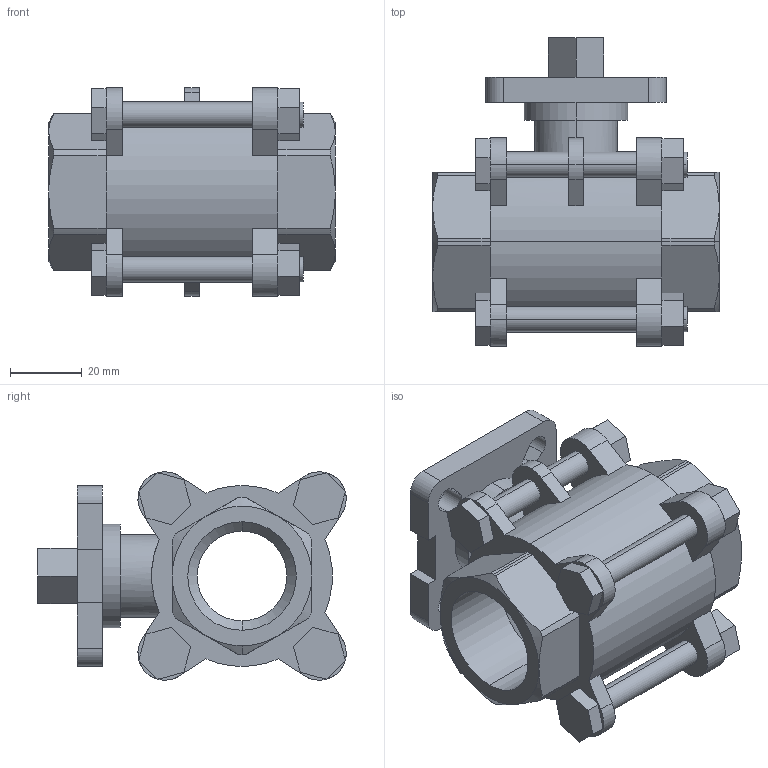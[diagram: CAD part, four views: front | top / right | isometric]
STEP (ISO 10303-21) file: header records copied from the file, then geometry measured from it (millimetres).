
FILE_DESCRIPTION (( 'STEP AP203' ), '1' );
FILE_NAME ('C3.622I0250FVPB0.STEP', '2018-10-12T12:37:52', ( '' ), ( '' ), 'SwSTEP 2.0', 'SolidWorks 2014', '' );
FILE_SCHEMA (( 'CONFIG_CONTROL_DESIGN' ));
Length unit declared in the file: millimetre
Products named in the file (1): C3.622I0250FVPB0
Bounding box: 80 x 86.05 x 58.13 mm (x, y, z)
Volume: 134278.3 mm3; surface area: 38158 mm2
Topology: 1 solids, 1 shells, 255 faces, 676 edges, 433 vertices
Faces by surface type: plane 160, cylinder 77, cone 18
Entity records: 8192 total; most frequent: CARTESIAN_POINT 1615, DIRECTION 1377, ORIENTED_EDGE 1352, EDGE_CURVE 676, AXIS2_PLACEMENT_3D 475, VERTEX_POINT 433, VECTOR 427, LINE 427
